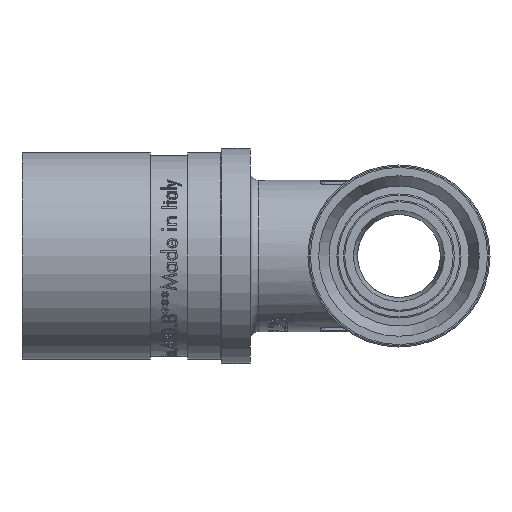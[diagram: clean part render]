
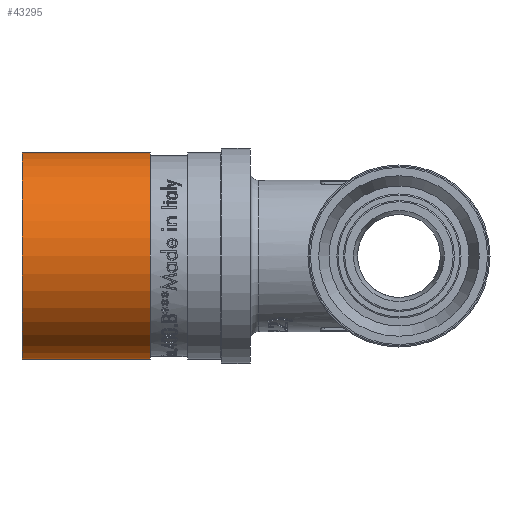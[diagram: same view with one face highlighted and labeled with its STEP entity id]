
A CAD part, left-side view. The second image highlights one B-rep face of the part: STEP entity #43295.
In plain terms, the highlighted cylindrical face has radius 12.5 mm (diameter 25 mm), a full revolution.
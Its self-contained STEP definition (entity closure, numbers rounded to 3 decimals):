
#3128=LINE('',#68942,#6217);
#6217=VECTOR('',#49360,12.5);
#11139=CYLINDRICAL_SURFACE('',#45689,12.5);
#11983=FACE_OUTER_BOUND('',#14532,.T.);
#14532=EDGE_LOOP('',(#32499,#32500,#32501,#32502,#32503,#32504));
#16821=CIRCLE('',#45687,12.5);
#16822=CIRCLE('',#45688,12.5);
#16823=CIRCLE('',#45690,12.5);
#16824=CIRCLE('',#45691,12.5);
#18968=VERTEX_POINT('',#68933);
#18969=VERTEX_POINT('',#68934);
#18970=VERTEX_POINT('',#68938);
#18971=VERTEX_POINT('',#68939);
#24060=EDGE_CURVE('',#18968,#18969,#16821,.T.);
#24061=EDGE_CURVE('',#18969,#18968,#16822,.T.);
#24062=EDGE_CURVE('',#18970,#18971,#16823,.T.);
#24063=EDGE_CURVE('',#18971,#18970,#16824,.T.);
#24064=EDGE_CURVE('',#18971,#18969,#3128,.T.);
#32499=ORIENTED_EDGE('',*,*,#24062,.F.);
#32500=ORIENTED_EDGE('',*,*,#24063,.F.);
#32501=ORIENTED_EDGE('',*,*,#24064,.T.);
#32502=ORIENTED_EDGE('',*,*,#24061,.T.);
#32503=ORIENTED_EDGE('',*,*,#24060,.T.);
#32504=ORIENTED_EDGE('',*,*,#24064,.F.);
#43295=ADVANCED_FACE('',(#11983),#11139,.T.);
#45687=AXIS2_PLACEMENT_3D('',#68935,#49350,#49351);
#45688=AXIS2_PLACEMENT_3D('',#68936,#49352,#49353);
#45689=AXIS2_PLACEMENT_3D('',#68937,#49354,#49355);
#45690=AXIS2_PLACEMENT_3D('',#68940,#49356,#49357);
#45691=AXIS2_PLACEMENT_3D('',#68941,#49358,#49359);
#49350=DIRECTION('center_axis',(0.,-1.,0.));
#49351=DIRECTION('ref_axis',(1.,0.,0.));
#49352=DIRECTION('center_axis',(0.,-1.,0.));
#49353=DIRECTION('ref_axis',(1.,0.,0.));
#49354=DIRECTION('center_axis',(0.,-1.,0.));
#49355=DIRECTION('ref_axis',(1.,0.,0.));
#49356=DIRECTION('center_axis',(0.,-1.,0.));
#49357=DIRECTION('ref_axis',(1.,0.,0.));
#49358=DIRECTION('center_axis',(0.,-1.,0.));
#49359=DIRECTION('ref_axis',(1.,0.,0.));
#49360=DIRECTION('',(0.,1.,0.));
#68933=CARTESIAN_POINT('',(12.5,45.549,0.));
#68934=CARTESIAN_POINT('',(-12.5,45.549,0.));
#68935=CARTESIAN_POINT('Origin',(0.,45.549,0.));
#68936=CARTESIAN_POINT('Origin',(0.,45.549,0.));
#68937=CARTESIAN_POINT('Origin',(0.,37.799,0.));
#68938=CARTESIAN_POINT('',(12.5,30.049,0.));
#68939=CARTESIAN_POINT('',(-12.5,30.049,0.));
#68940=CARTESIAN_POINT('Origin',(0.,30.049,0.));
#68941=CARTESIAN_POINT('Origin',(0.,30.049,0.));
#68942=CARTESIAN_POINT('',(-12.5,37.799,0.));
